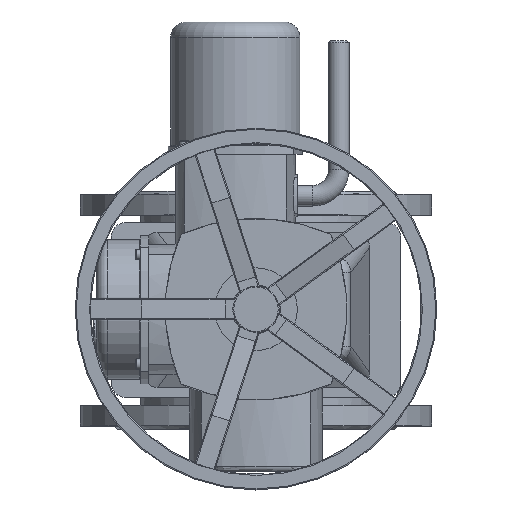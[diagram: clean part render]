
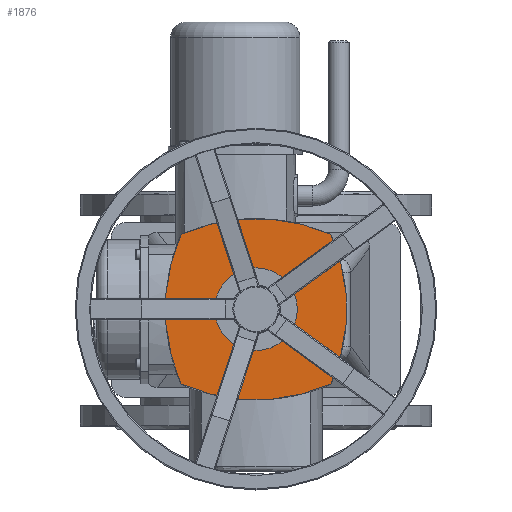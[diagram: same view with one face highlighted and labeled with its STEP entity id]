
A CAD part, top view. The second image highlights one B-rep face of the part: STEP entity #1876.
In plain terms, the highlighted planar face has unit normal (0, 0, 1).
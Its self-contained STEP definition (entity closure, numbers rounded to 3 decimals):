
#1876=ADVANCED_FACE('',(#6158,#6160),#6162,.T.);
#6158=FACE_BOUND('',#6159,.T.);
#6159=EDGE_LOOP('',(#9741,#9742,#9743,#9744));
#6160=FACE_BOUND('',#6161,.T.);
#6161=EDGE_LOOP('',(#9745));
#6162=PLANE('',#6163);
#6163=AXIS2_PLACEMENT_3D('',#6164,#6165,#6166);
#6164=CARTESIAN_POINT('',(0.,0.,650.));
#6165=DIRECTION('',(0.,0.,1.));
#6166=DIRECTION('',(0.,1.,0.));
#9741=ORIENTED_EDGE('',*,*,#11348,.T.);
#9742=ORIENTED_EDGE('',*,*,#11353,.T.);
#9743=ORIENTED_EDGE('',*,*,#11339,.T.);
#9744=ORIENTED_EDGE('',*,*,#11330,.T.);
#9745=ORIENTED_EDGE('',*,*,#11354,.F.);
#11330=EDGE_CURVE('',#12748,#12746,#12749,.T.);
#11339=EDGE_CURVE('',#12764,#12748,#12765,.T.);
#11348=EDGE_CURVE('',#12746,#12777,#12779,.T.);
#11353=EDGE_CURVE('',#12777,#12764,#12788,.T.);
#11354=EDGE_CURVE('',#12789,#12789,#12790,.T.);
#12746=VERTEX_POINT('',#18015);
#12748=VERTEX_POINT('',#18019);
#12749=CIRCLE('',#18020,180.);
#12764=VERTEX_POINT('',#18144);
#12765=CIRCLE('',#18145,180.);
#12777=VERTEX_POINT('',#18259);
#12779=CIRCLE('',#18263,180.);
#12788=CIRCLE('',#18448,180.);
#12789=VERTEX_POINT('',#18452);
#12790=CIRCLE('',#18453,40.);
#18015=CARTESIAN_POINT('',(-72.478,-72.478,650.));
#18019=CARTESIAN_POINT('',(-72.478,72.478,650.));
#18020=AXIS2_PLACEMENT_3D('',#18021,#18022,#18023);
#18021=CARTESIAN_POINT('',(92.285,0.,650.));
#18022=DIRECTION('',(0.,0.,1.));
#18023=DIRECTION('',(-0.915,0.403,0.));
#18144=CARTESIAN_POINT('',(72.478,72.478,650.));
#18145=AXIS2_PLACEMENT_3D('',#18146,#18147,#18148);
#18146=CARTESIAN_POINT('',(0.,-92.285,650.));
#18147=DIRECTION('',(0.,0.,1.));
#18148=DIRECTION('',(0.403,0.915,0.));
#18259=CARTESIAN_POINT('',(72.478,-72.478,650.));
#18263=AXIS2_PLACEMENT_3D('',#18264,#18265,#18266);
#18264=CARTESIAN_POINT('',(0.,92.285,650.));
#18265=DIRECTION('',(0.,0.,1.));
#18266=DIRECTION('',(-0.403,-0.915,0.));
#18448=AXIS2_PLACEMENT_3D('',#18449,#18450,#18451);
#18449=CARTESIAN_POINT('',(-92.285,0.,650.));
#18450=DIRECTION('',(0.,0.,1.));
#18451=DIRECTION('',(0.915,-0.403,0.));
#18452=CARTESIAN_POINT('',(0.,40.,650.));
#18453=AXIS2_PLACEMENT_3D('',#18454,#18455,#18456);
#18454=CARTESIAN_POINT('',(0.,0.,650.));
#18455=DIRECTION('',(0.,0.,1.));
#18456=DIRECTION('',(0.,1.,0.));
